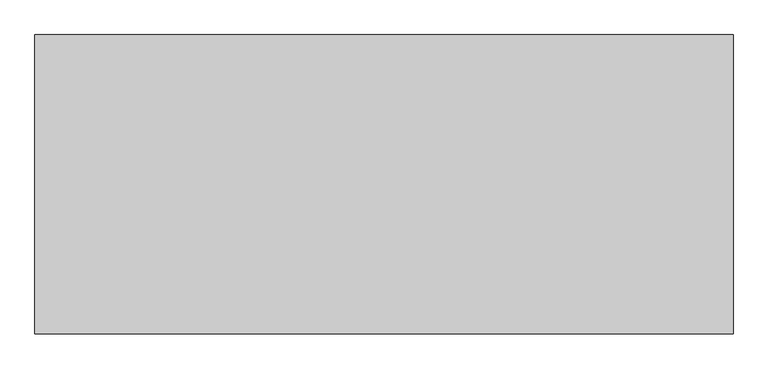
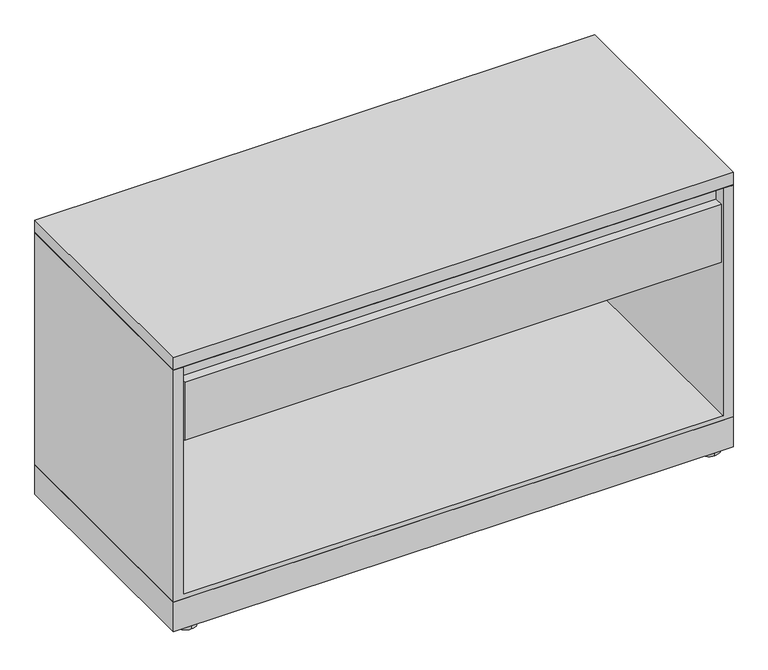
"""IFC4 building model written with IfcOpenShell, lengths in millimetres: furniture geometry, Steelcase - Universal Storage - Lateral File - 1.5 High - Flush Steel : Drawer/Open - 18D x 42W."""

from ifc_helpers import new_model, si_unit, point, frame, frame_2d, origin, origin_with_axes, place, context, project, spatial, polyline, circle_curve, trimmed, segment, composite_curve, outline, extrude, faceted_brep, source, transform, mapped, element, save


def furniture_f821bdb0(model_context):
    return source(origin(), model_context, "Body", "SolidModel", [
        extrude(outline(polyline([(1066.8, 457.2), (1066.8, 0.0), (0.0, 0.0), (0.0, 457.2), (1066.8, 457.2)])), frame((0.0, 0.0, 6.3500002), z_axis=(0.0, 0.0, 1.0), x_axis=(1.0, 0.0, 0.0)), (0.0, 0.0, 1.0), 59.6899998),
        extrude(outline(composite_curve([segment(trimmed(circle_curve(frame_2d((1032.1290058, 434.8633666)), 20.32), [point((1032.1290058, 414.5433666))], [point((1032.1290058, 455.1833666))], False, "CARTESIAN"), True, "CONTINUOUS"), segment(trimmed(circle_curve(frame_2d((1032.1290058, 434.8633666)), 20.32), [point((1032.1290058, 455.1833666))], [point((1032.1290058, 414.5433666))], False, "CARTESIAN"), True, "CONTINUOUS")], self_intersect=False)), origin_with_axes(), (0.0, 0.0, 1.0), 6.3500002),
        extrude(outline(composite_curve([segment(trimmed(circle_curve(frame_2d((1032.1290058, 20.7491455)), 20.32), [point((1032.1290058, 0.4291455))], [point((1032.1290058, 41.0691455))], False, "CARTESIAN"), True, "CONTINUOUS"), segment(trimmed(circle_curve(frame_2d((1032.1290058, 20.7491455)), 20.32), [point((1032.1290058, 41.0691455))], [point((1032.1290058, 0.4291455))], False, "CARTESIAN"), True, "CONTINUOUS")], self_intersect=False)), origin_with_axes(), (0.0, 0.0, 1.0), 6.3500002),
        extrude(outline(composite_curve([segment(trimmed(circle_curve(frame_2d((34.29, 434.8633666)), 20.32), [point((34.29, 455.1833666))], [point((34.29, 414.5433666))], False, "CARTESIAN"), True, "CONTINUOUS"), segment(trimmed(circle_curve(frame_2d((34.29, 434.8633666)), 20.32), [point((34.29, 414.5433666))], [point((34.29, 455.1833666))], False, "CARTESIAN"), True, "CONTINUOUS")], self_intersect=False)), origin_with_axes(), (0.0, 0.0, 1.0), 6.3500002),
        extrude(outline(composite_curve([segment(trimmed(circle_curve(frame_2d((34.29, 20.7491455)), 20.32), [point((34.29, 41.0691455))], [point((34.29, 0.4291455))], False, "CARTESIAN"), True, "CONTINUOUS"), segment(trimmed(circle_curve(frame_2d((34.29, 20.7491455)), 20.32), [point((34.29, 0.4291455))], [point((34.29, 41.0691455))], False, "CARTESIAN"), True, "CONTINUOUS")], self_intersect=False)), origin_with_axes(), (0.0, 0.0, 1.0), 6.3500002),
        extrude(outline(polyline([(437.7944128, 396.7988176), (437.7944128, 410.7687861), (440.969412, 410.7687861), (440.969412, 371.5257963), (26.822418, 371.5257963), (26.822418, 396.7988176), (437.7944128, 396.7988176)])), frame((22.0472, 0.0, 0.0), z_axis=(1.0, 0.0, 0.0), x_axis=(0.0, 1.0, 0.0)), (0.0, 0.0, 1.0), 1022.7056),
        extrude(outline(polyline([(1.45e-05, 534.0350121), (457.2, 534.0350121), (456.4379879, 533.273), (0.7620266, 533.273), (1.45e-05, 534.0350121)])), frame((0.0, 0.0, 0.0), z_axis=(1.0, 0.0, 0.0), x_axis=(0.0, 1.0, 0.0)), (0.0, 0.0, 1.0), 1066.8),
        extrude(outline(polyline([(1066.8, 457.2), (1066.8, 0.0), (0.0, 0.0), (0.0, 457.2), (1066.8, 457.2)])), frame((0.0, 0.0, 534.0350121), z_axis=(0.0, 0.0, 1.0), x_axis=(1.0, 0.0, 0.0)), (0.0, 0.0, 1.0), 24.6379729),
        faceted_brep([(1066.8, 0.0, 66.04), (1066.8, 457.2, 66.04), (1066.8, 457.2, 533.273), (1066.8, 0.0, 533.273), (0.0, 0.0, 533.273), (0.0, 457.2, 533.273), (0.0, 457.2, 66.04), (0.0, 0.0, 66.04), (1047.75, 0.0, 533.273), (1047.75, 0.0, 75.1586), (19.05, 0.0, 75.1586), (19.05, 0.0, 533.273), (19.05, 454.0249999, 533.273), (1047.75, 454.0249999, 533.273), (19.05, 454.0249999, 75.1586), (1047.75, 454.0249999, 75.1586)], [[[0, 1, 2, 3]], [[4, 5, 6, 7]], [[0, 3, 8, 9, 10, 11, 4, 7]], [[2, 1, 6, 5]], [[3, 2, 5, 4, 11, 12, 13, 8]], [[12, 14, 15, 13]], [[14, 12, 11, 10]], [[13, 15, 9, 8]], [[1, 0, 7, 6]], [[10, 9, 15, 14]]]),
        extrude(outline(polyline([(23.6541043, 384.1241916), (1.5178885, 384.1241916), (1.5178885, 501.1928089), (19.3741023, 501.1928089), (19.3741023, 531.799807), (23.6541043, 531.799807), (23.6541043, 384.1241916)])), frame((22.0472, 0.0, 0.0), z_axis=(1.0, 0.0, 0.0), x_axis=(0.0, 1.0, 0.0)), (0.0, 0.0, 1.0), 1022.7056),
    ])


if __name__ == "__main__":
    model = new_model("IFC4")
    model_context = context("Model", 3, world=origin())
    ifc_project = project(units=[si_unit("LENGTHUNIT", "METRE", prefix="MILLI")], contexts=[model_context])
    site = spatial("IfcSite", under=ifc_project)
    building = spatial("IfcBuilding", under=site)
    placement = place(None, origin())
    furniture_shape = furniture_f821bdb0(model_context)
    element("IfcFurniture", 1, ObjectType="Steelcase - Universal Storage - Lateral File - 1.5 High - Flush Steel : Drawer/Open - 18D x 42W", at=placement, inside=building, context=model_context, shape_type="MappedRepresentation", body=[
        mapped(furniture_shape, transform((0.0, 0.0, 0.0), x_axis=(1.0, 0.0, 0.0), y_axis=(0.0, 1.0, 0.0), z_axis=(0.0, 0.0, 1.0))),
    ])
    save(model, "model.ifc")
